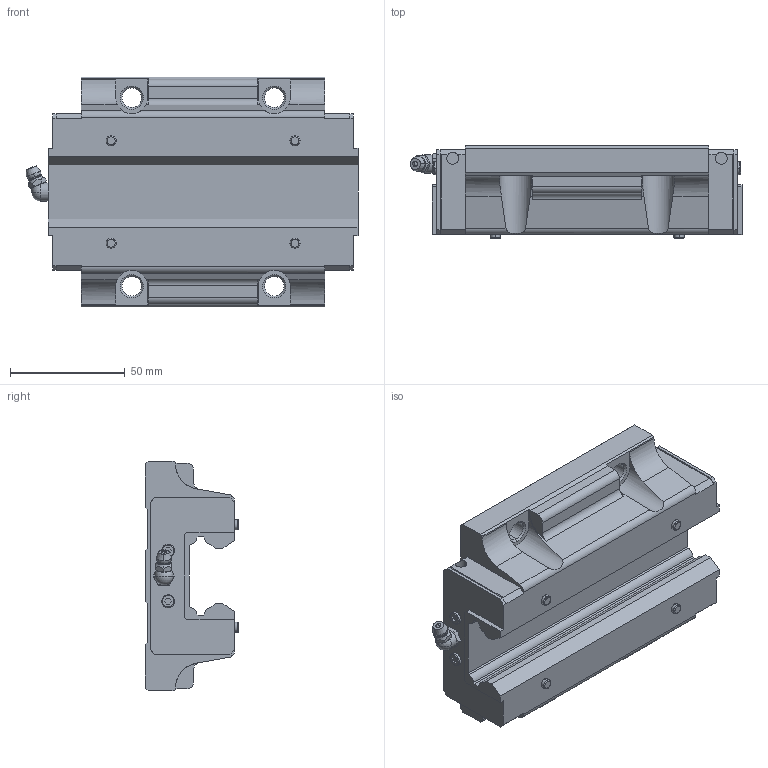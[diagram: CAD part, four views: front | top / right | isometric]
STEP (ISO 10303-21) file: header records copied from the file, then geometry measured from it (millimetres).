
FILE_DESCRIPTION (( 'STEP AP203' ), '1' );
FILE_NAME ('HSR35LC_SW2020.STEP', '2020-06-02T18:20:46', ( '' ), ( '' ), 'SwSTEP 2.0', 'SolidWorks 2020', '' );
FILE_SCHEMA (( 'CONFIG_CONTROL_DESIGN' ));
Length unit declared in the file: millimetre
Products named in the file (1): HSR35LC_SW2020
Bounding box: 144.4 x 40.5 x 100 mm (x, y, z)
Volume: 330790.8 mm3; surface area: 48120.8 mm2
Topology: 2 solids, 2 shells, 300 faces, 790 edges, 504 vertices
Faces by surface type: plane 172, cylinder 64, cone 36, torus 22, sphere 6
Entity records: 10198 total; most frequent: CARTESIAN_POINT 2655, ORIENTED_EDGE 1566, DIRECTION 1556, EDGE_CURVE 783, AXIS2_PLACEMENT_3D 524, LINE 508, VECTOR 508, VERTEX_POINT 504
